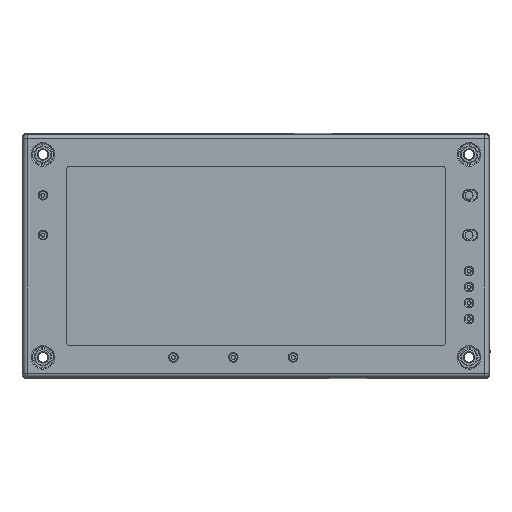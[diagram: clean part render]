
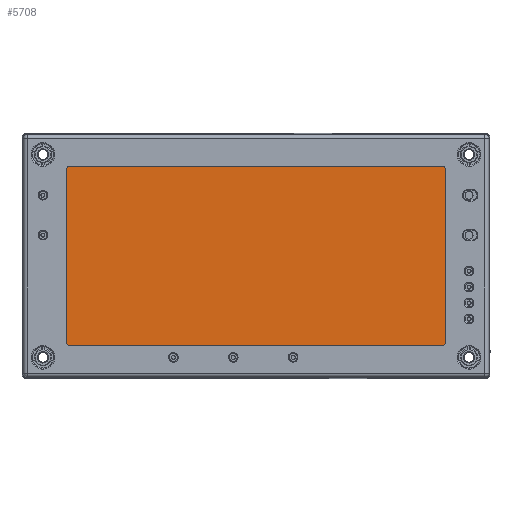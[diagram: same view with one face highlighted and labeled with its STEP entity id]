
A CAD part, top view. The second image highlights one B-rep face of the part: STEP entity #5708.
In plain terms, the highlighted planar face has unit normal (0, 0, 1).
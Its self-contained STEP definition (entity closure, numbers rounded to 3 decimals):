
#526=PLANE($,#6208);
#768=FACE_OUTER_BOUND($,#1173,.T.);
#1173=EDGE_LOOP($,(#4582,#4583,#4584,#4585,#4586,#4587,#4588,#4589,#4590,
#4591));
#1614=LINE($,#8676,#2108);
#1615=LINE($,#8680,#2109);
#1616=LINE($,#8684,#2110);
#1617=LINE($,#8688,#2111);
#1618=LINE($,#8692,#2112);
#2108=VECTOR($,#7251,90.309);
#2109=VECTOR($,#7254,43.);
#2110=VECTOR($,#7257,93.);
#2111=VECTOR($,#7260,43.026);
#2112=VECTOR($,#7263,1.837);
#2475=CIRCLE($,#6209,1.);
#2476=CIRCLE($,#6210,1.);
#2477=CIRCLE($,#6211,1.);
#2478=CIRCLE($,#6212,1.);
#2479=CIRCLE($,#6213,2.95);
#2797=VERTEX_POINT($,#8674);
#2798=VERTEX_POINT($,#8675);
#2799=VERTEX_POINT($,#8677);
#2800=VERTEX_POINT($,#8679);
#2801=VERTEX_POINT($,#8681);
#2802=VERTEX_POINT($,#8683);
#2803=VERTEX_POINT($,#8685);
#2804=VERTEX_POINT($,#8687);
#2805=VERTEX_POINT($,#8689);
#2806=VERTEX_POINT($,#8691);
#3448=EDGE_CURVE($,#2797,#2798,#1614,.T.);
#3449=EDGE_CURVE($,#2798,#2799,#2475,.T.);
#3450=EDGE_CURVE($,#2800,#2799,#1615,.T.);
#3451=EDGE_CURVE($,#2800,#2801,#2476,.T.);
#3452=EDGE_CURVE($,#2802,#2801,#1616,.T.);
#3453=EDGE_CURVE($,#2802,#2803,#2477,.T.);
#3454=EDGE_CURVE($,#2804,#2803,#1617,.T.);
#3455=EDGE_CURVE($,#2804,#2805,#2478,.T.);
#3456=EDGE_CURVE($,#2805,#2806,#1618,.T.);
#3457=EDGE_CURVE($,#2797,#2806,#2479,.T.);
#4582=ORIENTED_EDGE($,*,*,#3448,.T.);
#4583=ORIENTED_EDGE($,*,*,#3449,.T.);
#4584=ORIENTED_EDGE($,*,*,#3450,.F.);
#4585=ORIENTED_EDGE($,*,*,#3451,.T.);
#4586=ORIENTED_EDGE($,*,*,#3452,.F.);
#4587=ORIENTED_EDGE($,*,*,#3453,.T.);
#4588=ORIENTED_EDGE($,*,*,#3454,.F.);
#4589=ORIENTED_EDGE($,*,*,#3455,.T.);
#4590=ORIENTED_EDGE($,*,*,#3456,.T.);
#4591=ORIENTED_EDGE($,*,*,#3457,.F.);
#5708=ADVANCED_FACE($,(#768),#526,.T.);
#6208=AXIS2_PLACEMENT_3D($,#8673,#7249,#7250);
#6209=AXIS2_PLACEMENT_3D($,#8678,#7252,#7253);
#6210=AXIS2_PLACEMENT_3D($,#8682,#7255,#7256);
#6211=AXIS2_PLACEMENT_3D($,#8686,#7258,#7259);
#6212=AXIS2_PLACEMENT_3D($,#8690,#7261,#7262);
#6213=AXIS2_PLACEMENT_3D($,#8693,#7264,#7265);
#7249=DIRECTION('center_axis',(0.,0.,1.));
#7250=DIRECTION('ref_axis',(1.,0.,0.));
#7251=DIRECTION($,(1.,0.,0.));
#7252=DIRECTION('center_axis',(0.,0.,1.));
#7253=DIRECTION('ref_axis',(0.707,-0.707,0.));
#7254=DIRECTION($,(0.,-1.,0.));
#7255=DIRECTION('center_axis',(0.,0.,1.));
#7256=DIRECTION('ref_axis',(0.707,0.707,0.));
#7257=DIRECTION($,(1.,0.,0.));
#7258=DIRECTION('center_axis',(0.,0.,1.));
#7259=DIRECTION('ref_axis',(-0.707,0.707,0.));
#7260=DIRECTION($,(0.,1.,0.));
#7261=DIRECTION('center_axis',(0.,0.,1.));
#7262=DIRECTION('ref_axis',(-0.227,-0.974,0.));
#7263=DIRECTION($,(1.,0.,0.));
#7264=DIRECTION('center_axis',(0.,0.,1.));
#7265=DIRECTION('ref_axis',(-1.,0.,0.));
#8673=CARTESIAN_POINT('Origin',(14.25,5.3,12.8));
#8674=CARTESIAN_POINT('',(14.791,8.2,12.8));
#8675=CARTESIAN_POINT('',(105.1,8.2,12.8));
#8676=CARTESIAN_POINT($,(13.061,8.2,12.8));
#8677=CARTESIAN_POINT('',(106.1,9.2,12.8));
#8678=CARTESIAN_POINT('Origin',(105.1,9.2,12.8));
#8679=CARTESIAN_POINT('',(106.1,52.2,12.8));
#8680=CARTESIAN_POINT($,(106.1,8.2,12.8));
#8681=CARTESIAN_POINT('',(105.1,53.2,12.8));
#8682=CARTESIAN_POINT('Origin',(105.1,52.2,12.8));
#8683=CARTESIAN_POINT('',(12.1,53.2,12.8));
#8684=CARTESIAN_POINT($,(13.4,53.2,12.8));
#8685=CARTESIAN_POINT('',(11.1,52.2,12.8));
#8686=CARTESIAN_POINT('Origin',(12.1,52.2,12.8));
#8687=CARTESIAN_POINT('',(11.1,9.174,12.8));
#8688=CARTESIAN_POINT($,(11.1,10.5,12.8));
#8689=CARTESIAN_POINT('',(11.873,8.2,12.8));
#8690=CARTESIAN_POINT('Origin',(12.1,9.174,12.8));
#8691=CARTESIAN_POINT('',(13.709,8.2,12.8));
#8692=CARTESIAN_POINT($,(13.061,8.2,12.8));
#8693=CARTESIAN_POINT('Origin',(14.25,5.3,12.8));
